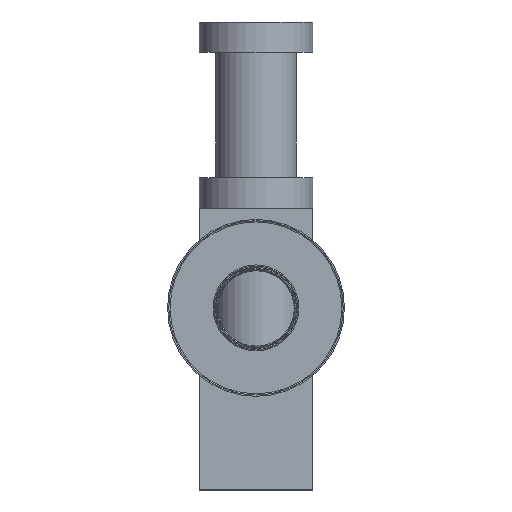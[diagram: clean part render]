
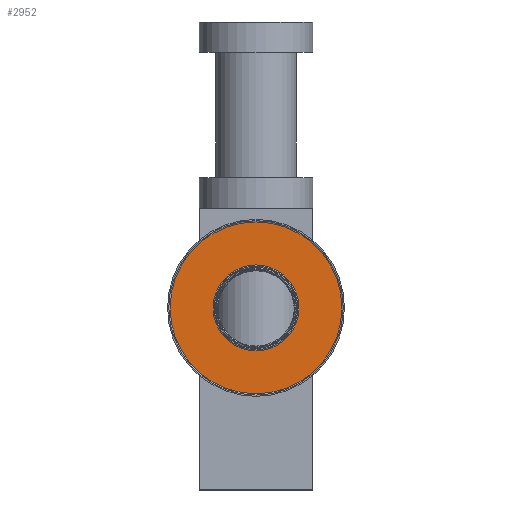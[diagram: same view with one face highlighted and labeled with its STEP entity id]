
A CAD part, top view. The second image highlights one B-rep face of the part: STEP entity #2952.
In plain terms, the highlighted planar face has unit normal (0, 0, 1).
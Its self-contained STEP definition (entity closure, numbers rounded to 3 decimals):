
#171=FACE_BOUND('',#466,.T.);
#215=PLANE('',#3168);
#296=FACE_OUTER_BOUND('',#465,.T.);
#465=EDGE_LOOP('',(#2007,#2008));
#466=EDGE_LOOP('',(#2009,#2010,#2011));
#946=CIRCLE('',#3153,34.);
#947=CIRCLE('',#3154,34.);
#956=CIRCLE('',#3169,17.);
#957=CIRCLE('',#3170,17.);
#958=CIRCLE('',#3171,17.);
#1166=VERTEX_POINT('',#4459);
#1167=VERTEX_POINT('',#4460);
#1183=VERTEX_POINT('',#4502);
#1184=VERTEX_POINT('',#4503);
#1185=VERTEX_POINT('',#4505);
#1505=EDGE_CURVE('',#1166,#1167,#946,.T.);
#1506=EDGE_CURVE('',#1167,#1166,#947,.T.);
#1525=EDGE_CURVE('',#1183,#1184,#956,.T.);
#1526=EDGE_CURVE('',#1185,#1183,#957,.T.);
#1527=EDGE_CURVE('',#1184,#1185,#958,.T.);
#2007=ORIENTED_EDGE('',*,*,#1505,.T.);
#2008=ORIENTED_EDGE('',*,*,#1506,.T.);
#2009=ORIENTED_EDGE('',*,*,#1525,.F.);
#2010=ORIENTED_EDGE('',*,*,#1526,.F.);
#2011=ORIENTED_EDGE('',*,*,#1527,.F.);
#2952=ADVANCED_FACE('',(#296,#171),#215,.F.);
#3153=AXIS2_PLACEMENT_3D('',#4461,#3560,#3561);
#3154=AXIS2_PLACEMENT_3D('',#4462,#3562,#3563);
#3168=AXIS2_PLACEMENT_3D('',#4501,#3600,#3601);
#3169=AXIS2_PLACEMENT_3D('',#4504,#3602,#3603);
#3170=AXIS2_PLACEMENT_3D('',#4506,#3604,#3605);
#3171=AXIS2_PLACEMENT_3D('',#4507,#3606,#3607);
#3560=DIRECTION('center_axis',(0.,0.,
1.));
#3561=DIRECTION('ref_axis',(1.,0.,0.));
#3562=DIRECTION('center_axis',(0.,0.,
1.));
#3563=DIRECTION('ref_axis',(1.,0.,0.));
#3600=DIRECTION('center_axis',(0.,0.,-1.));
#3601=DIRECTION('ref_axis',(0.,1.,0.));
#3602=DIRECTION('center_axis',(0.,0.,
1.));
#3603=DIRECTION('ref_axis',(-1.,0.,0.));
#3604=DIRECTION('center_axis',(0.,0.,
1.));
#3605=DIRECTION('ref_axis',(-1.,0.,0.));
#3606=DIRECTION('center_axis',(0.,0.,
1.));
#3607=DIRECTION('ref_axis',(-1.,0.,0.));
#4459=CARTESIAN_POINT('',(34.,71.5,304.));
#4460=CARTESIAN_POINT('',(0.,105.5,304.));
#4461=CARTESIAN_POINT('Origin',(0.,71.5,304.));
#4462=CARTESIAN_POINT('Origin',(0.,71.5,304.));
#4501=CARTESIAN_POINT('Origin',(0.,37.092,304.));
#4502=CARTESIAN_POINT('',(17.,71.5,304.));
#4503=CARTESIAN_POINT('',(0.,88.5,304.));
#4504=CARTESIAN_POINT('Origin',(0.,71.5,304.));
#4505=CARTESIAN_POINT('',(-17.,71.5,304.));
#4506=CARTESIAN_POINT('Origin',(0.,71.5,304.));
#4507=CARTESIAN_POINT('Origin',(0.,71.5,304.));
